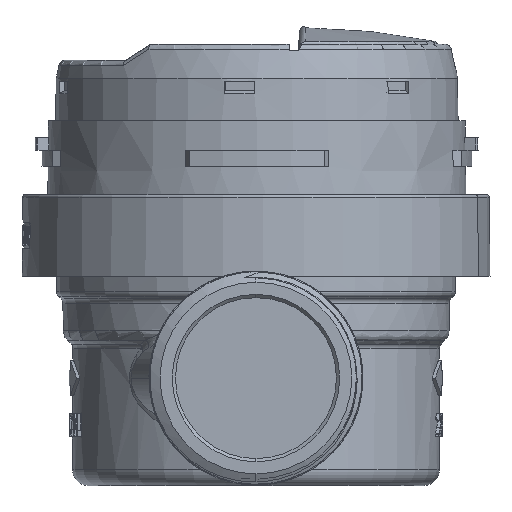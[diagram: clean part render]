
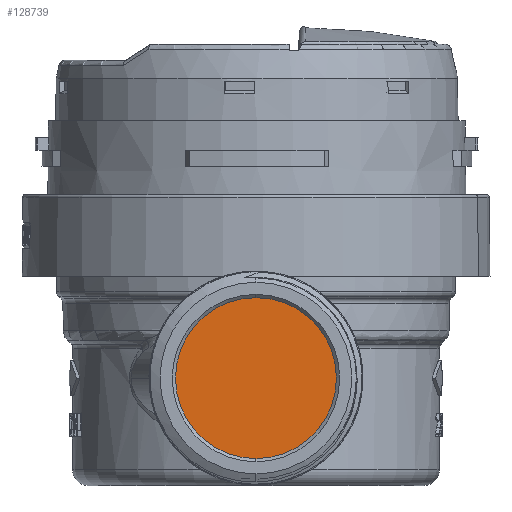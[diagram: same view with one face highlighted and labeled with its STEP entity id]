
A CAD part, left-side view. The second image highlights one B-rep face of the part: STEP entity #128739.
In plain terms, the highlighted planar face has unit normal (-1, 0, 0).
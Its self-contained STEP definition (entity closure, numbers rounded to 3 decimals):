
#1338 = DIRECTION ( 'NONE',  ( 0., 0., -1. ) ) ;
#9457 = CARTESIAN_POINT ( 'NONE',  ( -58.5, 0., 0. ) ) ;
#17691 = VERTEX_POINT ( 'NONE', #64018 ) ;
#21697 = CARTESIAN_POINT ( 'NONE',  ( -58.5, 0., 0. ) ) ;
#26218 = AXIS2_PLACEMENT_3D ( 'NONE', #69330, #56528, #108879 ) ;
#35182 = EDGE_LOOP ( 'NONE', ( #48359, #39765 ) ) ;
#38833 = EDGE_CURVE ( 'NONE', #72585, #17691, #82653, .T. ) ;
#39765 = ORIENTED_EDGE ( 'NONE', *, *, #38833, .T. ) ;
#40728 = DIRECTION ( 'NONE',  ( 1., 0., 0. ) ) ;
#48359 = ORIENTED_EDGE ( 'NONE', *, *, #73885, .T. ) ;
#49821 = CIRCLE ( 'NONE', #132448, 12.5 ) ;
#56528 = DIRECTION ( 'NONE',  ( -1., 0., 0. ) ) ;
#61744 = FACE_OUTER_BOUND ( 'NONE', #35182, .T. ) ;
#64018 = CARTESIAN_POINT ( 'NONE',  ( -58.5, 0., 12.5 ) ) ;
#69330 = CARTESIAN_POINT ( 'NONE',  ( -58.5, 0., 0. ) ) ;
#72585 = VERTEX_POINT ( 'NONE', #78508 ) ;
#73885 = EDGE_CURVE ( 'NONE', #17691, #72585, #49821, .T. ) ;
#78508 = CARTESIAN_POINT ( 'NONE',  ( -58.5, 0., -12.5 ) ) ;
#82653 = CIRCLE ( 'NONE', #26218, 12.5 ) ;
#108879 = DIRECTION ( 'NONE',  ( 0., 0., 1. ) ) ;
#110587 = AXIS2_PLACEMENT_3D ( 'NONE', #21697, #40728, #1338 ) ;
#112776 = PLANE ( 'NONE',  #110587 ) ;
#125598 = DIRECTION ( 'NONE',  ( 0., 0., 1. ) ) ;
#126253 = DIRECTION ( 'NONE',  ( -1., 0., 0. ) ) ;
#128739 = ADVANCED_FACE ( 'NONE', ( #61744 ), #112776, .F. ) ;
#132448 = AXIS2_PLACEMENT_3D ( 'NONE', #9457, #126253, #125598 ) ;
